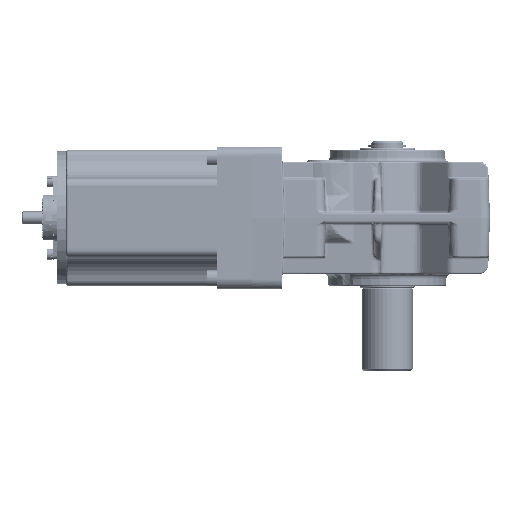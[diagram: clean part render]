
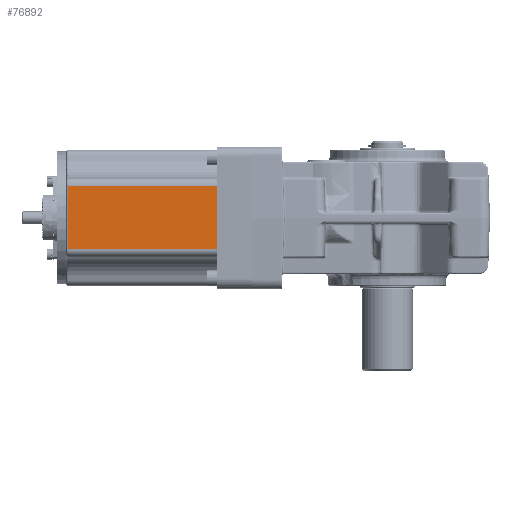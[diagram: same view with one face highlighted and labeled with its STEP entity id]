
A CAD part, front view. The second image highlights one B-rep face of the part: STEP entity #76892.
In plain terms, the highlighted planar face has unit normal (0, -1, 0).
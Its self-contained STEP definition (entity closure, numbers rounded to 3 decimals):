
#22349 = LINE ( 'NONE', #112264, #409040 ) ;
#38701 = CARTESIAN_POINT ( 'NONE',  ( -280.719, -71.091, 17.364 ) ) ;
#40529 = DIRECTION ( 'NONE',  ( 1., 0., 0. ) ) ;
#41392 = VECTOR ( 'NONE', #158162, 1000. ) ;
#76892 = ADVANCED_FACE ( 'NONE', ( #98877 ), #135077, .F. ) ;
#77182 = EDGE_CURVE ( 'NONE', #265107, #225222, #331800, .T. ) ;
#93812 = AXIS2_PLACEMENT_3D ( 'NONE', #296017, #325971, #265894 ) ;
#98877 = FACE_OUTER_BOUND ( 'NONE', #299493, .T. ) ;
#112264 = CARTESIAN_POINT ( 'NONE',  ( -280.719, -71.091, 17.364 ) ) ;
#118621 = LINE ( 'NONE', #186942, #148176 ) ;
#126973 = DIRECTION ( 'NONE',  ( -1., 0., 0. ) ) ;
#135077 = PLANE ( 'NONE',  #93812 ) ;
#143411 = VERTEX_POINT ( 'NONE', #145344 ) ;
#145344 = CARTESIAN_POINT ( 'NONE',  ( -280.719, -71.091, 57.44 ) ) ;
#148176 = VECTOR ( 'NONE', #126973, 1000. ) ;
#150540 = DIRECTION ( 'NONE',  ( 0., 0., -1. ) ) ;
#156990 = EDGE_CURVE ( 'NONE', #253063, #225222, #218260, .T. ) ;
#158162 = DIRECTION ( 'NONE',  ( 0., 0., -1. ) ) ;
#175055 = CARTESIAN_POINT ( 'NONE',  ( -174.219, -71.091, 17.364 ) ) ;
#186942 = CARTESIAN_POINT ( 'NONE',  ( -174.219, -71.091, 57.44 ) ) ;
#218260 = LINE ( 'NONE', #284850, #41392 ) ;
#224185 = CARTESIAN_POINT ( 'NONE',  ( -186.719, -71.091, 57.44 ) ) ;
#225222 = VERTEX_POINT ( 'NONE', #268116 ) ;
#232907 = ORIENTED_EDGE ( 'NONE', *, *, #397307, .T. ) ;
#233972 = ORIENTED_EDGE ( 'NONE', *, *, #156990, .F. ) ;
#253063 = VERTEX_POINT ( 'NONE', #224185 ) ;
#265107 = VERTEX_POINT ( 'NONE', #38701 ) ;
#265894 = DIRECTION ( 'NONE',  ( 0., 0., -1. ) ) ;
#268116 = CARTESIAN_POINT ( 'NONE',  ( -186.719, -71.091, 17.364 ) ) ;
#284850 = CARTESIAN_POINT ( 'NONE',  ( -186.719, -71.091, 80.402 ) ) ;
#296017 = CARTESIAN_POINT ( 'NONE',  ( -174.219, -71.091, 80.402 ) ) ;
#299493 = EDGE_LOOP ( 'NONE', ( #233972, #232907, #411732, #330814 ) ) ;
#325971 = DIRECTION ( 'NONE',  ( 0., 1., 0. ) ) ;
#330814 = ORIENTED_EDGE ( 'NONE', *, *, #77182, .T. ) ;
#331669 = EDGE_CURVE ( 'NONE', #143411, #265107, #22349, .T. ) ;
#331800 = LINE ( 'NONE', #175055, #341209 ) ;
#341209 = VECTOR ( 'NONE', #40529, 1000. ) ;
#397307 = EDGE_CURVE ( 'NONE', #253063, #143411, #118621, .T. ) ;
#409040 = VECTOR ( 'NONE', #150540, 1000. ) ;
#411732 = ORIENTED_EDGE ( 'NONE', *, *, #331669, .T. ) ;
